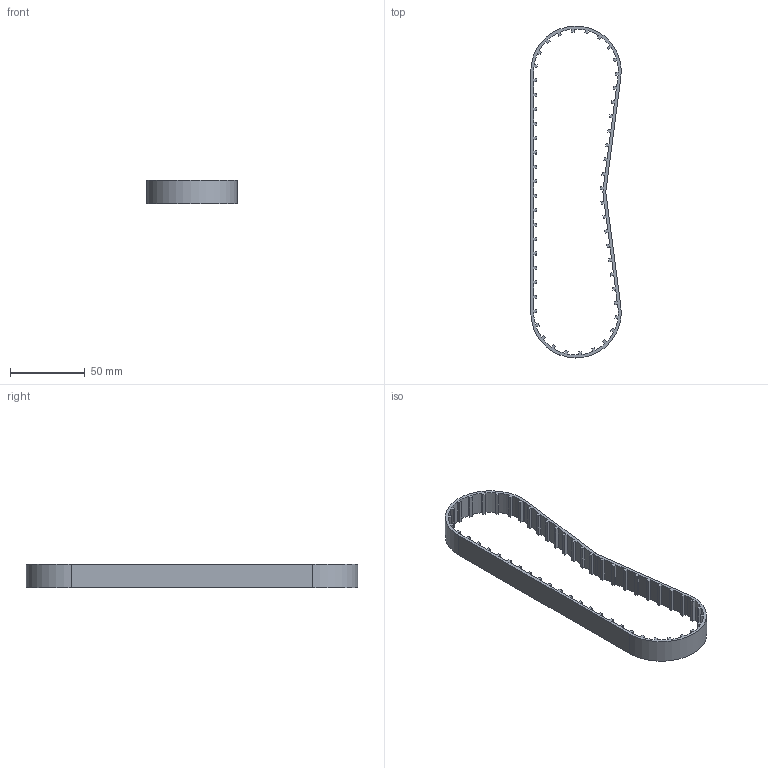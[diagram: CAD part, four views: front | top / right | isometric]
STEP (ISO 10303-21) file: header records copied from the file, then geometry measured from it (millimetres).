
FILE_DESCRIPTION (( 'STEP AP203' ), '1' );
FILE_NAME ('084.821.003.STEP', '2018-03-09T15:47:36', ( '' ), ( '' ), 'SwSTEP 2.0', 'SolidWorks 2016', '' );
FILE_SCHEMA (( 'CONFIG_CONTROL_DESIGN' ));
Length unit declared in the file: millimetre
Products named in the file (1): 084.821.003
Bounding box: 60.5 x 222.02 x 16 mm (x, y, z)
Volume: 19587.1 mm3; surface area: 22042 mm2
Topology: 1 solids, 1 shells, 223 faces, 663 edges, 442 vertices
Faces by surface type: plane 196, cylinder 27
Entity records: 7452 total; most frequent: CARTESIAN_POINT 1329, ORIENTED_EDGE 1326, DIRECTION 1165, EDGE_CURVE 663, LINE 609, VECTOR 609, VERTEX_POINT 442, AXIS2_PLACEMENT_3D 278
